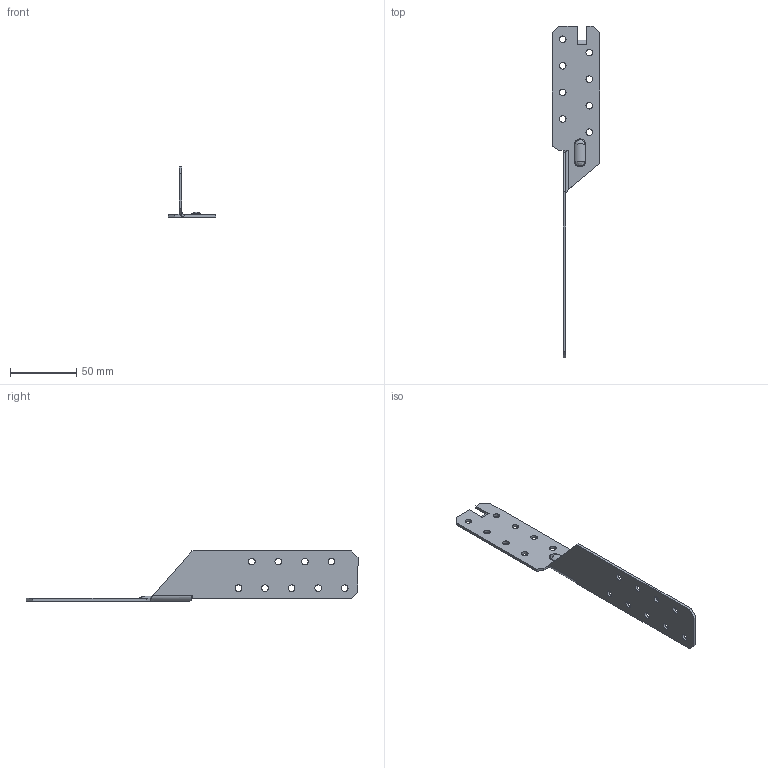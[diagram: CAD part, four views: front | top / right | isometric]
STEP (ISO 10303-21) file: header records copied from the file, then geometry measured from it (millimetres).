
FILE_DESCRIPTION (( 'STEP AP203' ), '1' );
FILE_NAME ('100503RL.STEP', '2020-02-17T09:45:46', ( '' ), ( '' ), 'SwSTEP 2.0', 'SolidWorks 2013', '' );
FILE_SCHEMA (( 'CONFIG_CONTROL_DESIGN' ));
Length unit declared in the file: millimetre
Products named in the file (1): 100503RL
Bounding box: 36 x 250 x 37.74 mm (x, y, z)
Volume: 17029.4 mm3; surface area: 18872 mm2
Topology: 1 solids, 1 shells, 83 faces, 221 edges, 142 vertices
Faces by surface type: cylinder 43, plane 30, bspline 10
Entity records: 3383 total; most frequent: CARTESIAN_POINT 1164, ORIENTED_EDGE 442, DIRECTION 435, EDGE_CURVE 221, AXIS2_PLACEMENT_3D 156, VERTEX_POINT 142, VECTOR 123, LINE 123
